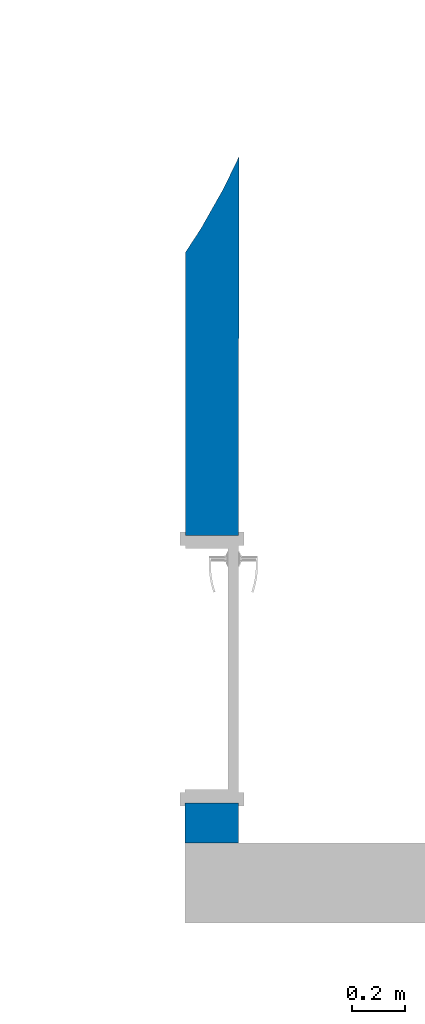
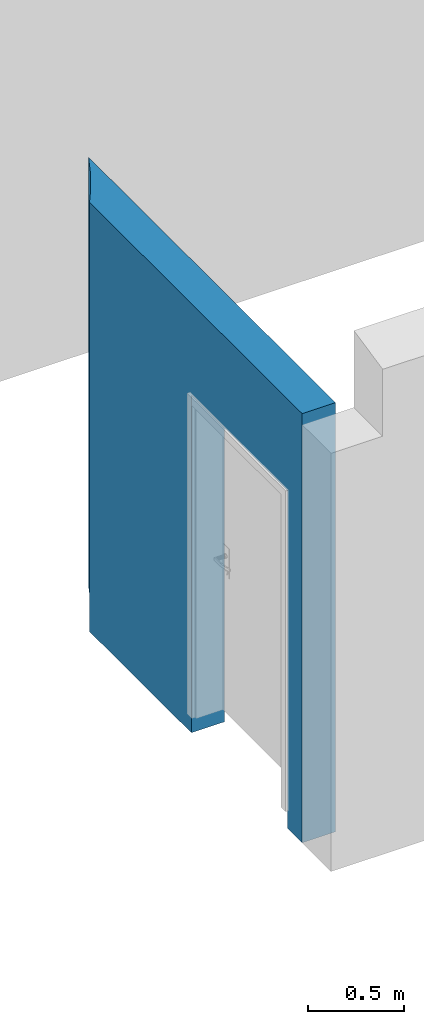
# One storey, part 5 of 7: 1 wall, 1 opening.
"""IFC4 building model written with IfcOpenShell, lengths in millimetres."""

from ifc_helpers import new_model, entity, si_unit, converted_unit, derived_unit, direction, frame, origin_with_axes, place, context, subcontext, project, spatial, polygons, material, constituent, constituent_set, type_object, element, save


model = new_model("IFC4")

# Units and contexts
model_context = context("Model", 3, precision=0.01, world=origin_with_axes(), true_north=direction((0.0, 1.0)))
body_context = subcontext(model_context, "Body", "Model", "MODEL_VIEW")
ifc_project = project(units=[si_unit("LENGTHUNIT", "METRE", prefix="MILLI"), si_unit("AREAUNIT", "SQUARE_METRE"), si_unit("VOLUMEUNIT", "CUBIC_METRE"), converted_unit("PLANEANGLEUNIT", "DEGREE", entity("IfcPlaneAngleMeasure", 0.0174532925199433), si_unit("PLANEANGLEUNIT", "RADIAN"), dimensions=[0, 0, 0, 0, 0, 0, 0]), converted_unit("TIMEUNIT", "Year", entity("IfcTimeMeasure", 31557600.0), si_unit("TIMEUNIT", "SECOND"), dimensions=[0, 0, 1, 0, 0, 0, 0]), si_unit("MASSUNIT", "GRAM", prefix="KILO"), si_unit("THERMODYNAMICTEMPERATUREUNIT", "DEGREE_CELSIUS"), si_unit("LUMINOUSINTENSITYUNIT", "LUMEN"), si_unit("ENERGYUNIT", "JOULE", prefix="MEGA"), derived_unit("THERMALCONDUCTANCEUNIT", [(si_unit("POWERUNIT", "WATT"), 1), (si_unit("LENGTHUNIT", "METRE"), -1), (si_unit("THERMODYNAMICTEMPERATUREUNIT", "KELVIN"), -1)]), derived_unit("SPECIFICHEATCAPACITYUNIT", [(si_unit("ENERGYUNIT", "JOULE"), 1), (si_unit("MASSUNIT", "GRAM", prefix="KILO"), -1), (si_unit("THERMODYNAMICTEMPERATUREUNIT", "KELVIN"), -1)]), derived_unit("MASSDENSITYUNIT", [(si_unit("MASSUNIT", "GRAM", prefix="KILO"), 1), (si_unit("VOLUMEUNIT", "CUBIC_METRE"), -1)])], contexts=[model_context])

# Site, building, storey
site_placement = place(None, origin_with_axes())
site = spatial("IfcSite", under=ifc_project, at=site_placement, Name="Exteriér", CompositionType="ELEMENT")
building_placement = place(site_placement, origin_with_axes())
building = spatial("IfcBuilding", under=site, at=building_placement, Name="Univerzitní lezecké centrum", CompositionType="ELEMENT")
storey_placement = place(building_placement, frame((0.0, 0.0, 9600.000000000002), z_axis=(0.0, 0.0, 1.0), x_axis=(1.0, 0.0, 0.0)))
storey = spatial("IfcBuildingStorey", under=building, at=storey_placement, Name="4.NP", CompositionType="ELEMENT", Elevation=9600.0)

# Wall, opening
ifc_material = material(Name="Beton vyztužený - vnitřní svislé kce")
ifc_constituent = constituent(ifc_material, Name="Beton vyztužený - vnitřní svislé kce")
ifc_constituent_set = constituent_set(constituents=[ifc_constituent], Name="!Vnitřní betonová stěna 200 mm")
wall_type = type_object("IfcWallType", Name="!Vnitřní betonová stěna 200 mm 200", PredefinedType="NOTDEFINED")
wall_placement = place(storey_placement, frame((4699.951161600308, 2610.480756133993, -120.000000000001), z_axis=(0.0, 0.0, 1.0), x_axis=(-7.624093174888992e-05, -0.9999999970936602, 0.0)))
wall = element("IfcWall", 1, at=wall_placement, inside=storey, type_object=wall_type, material=ifc_constituent_set, Name="St05", PredefinedType="NOTDEFINED", context=body_context, shape_type="Tessellation", body=[
    polygons([(1460.483393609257, 199.9999155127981, 0.5000000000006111), (1460.483393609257, 199.9999155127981, 0.0), (45.86550830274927, 199.9999999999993, 0.0), (45.86550830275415, 199.9999999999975, 2720.000000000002), (2610.46551553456, 199.9999999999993, 2720.0), (2610.46551553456, 199.9999999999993, 0.0), (2460.483396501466, 200.0001008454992, 0.0), (2460.483396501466, 200.0001008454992, 0.5000000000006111), (2460.483303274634, 200.0000000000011, 120.000000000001), (2460.483303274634, 199.9999999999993, 2140.0), (1460.483303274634, 199.9999999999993, 2140.0), (1460.483303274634, 199.9999999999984, 120.000000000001), (1460.483382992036, -8.506927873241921e-05, 0.5000000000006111), (1460.483382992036, -8.506927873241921e-05, 0.0), (403.0074505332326, 0.0, 0.0), (313.5317710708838, 58.33972012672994, 0.0), (164.2917884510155, 142.6680321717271, 0.0), (87.14781528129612, 180.0146057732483, 0.0), (87.14781528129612, 180.0146057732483, 2720.000000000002), (313.5317710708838, 58.33972012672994, 2720.000000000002), (403.0074505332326, 0.0, 2719.999999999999), (2610.480763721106, -1.995907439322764e-06, 2720.0), (164.2917884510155, 142.6680321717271, 2720.000000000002), (2610.480763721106, -1.995907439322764e-06, 0.0), (2460.483385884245, 0.0001002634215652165, 0.0), (2460.483385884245, 0.0001002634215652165, 0.5000000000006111), (2460.483303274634, 0.0, 120.000000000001), (2460.483303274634, -1.995908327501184e-06, 2140.0), (1460.483303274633, -1.995907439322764e-06, 2140.0), (1460.483303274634, 0.0, 120.000000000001)], [[[1, 2, 3, 4, 5, 6, 7, 8, 9, 10, 11, 12]], [[2, 1, 13, 14]], [[2, 14, 15, 16, 17, 18, 3]], [[4, 3, 18, 19]], [[20, 21, 22, 5, 4, 19, 23]], [[5, 22, 24, 6]], [[25, 7, 6, 24]], [[26, 8, 7, 25]], [[8, 26, 27, 9]], [[27, 28, 10, 9]], [[28, 29, 11, 10]], [[29, 30, 12, 11]], [[13, 1, 12, 30]], [[14, 13, 30, 29, 28, 27, 26, 25, 24, 22, 21, 15]], [[20, 16, 15, 21]], [[23, 17, 16, 20]], [[19, 18, 17, 23]]], closed=True),
])
opening_placement = place(wall_placement, frame((1960.483303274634, 0.0, 120.000000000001), z_axis=(0.0, 0.0, 1.0), x_axis=(1.0, 0.0, 0.0)))
element("IfcOpeningElement", 2, at=opening_placement, cuts=wall, Name="D15", context=body_context, identifier="Reference", shape_type="Tessellation", body=[
    polygons([(-500.0, 0.0, 0.0), (-500.0, 0.0, 2020.0), (-499.9999999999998, 200.0000000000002, 2020.0), (-499.9999999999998, 199.9999999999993, 0.0), (500.0, 0.0, 2020.0), (-512.0, 0.0, 0.0), (-512.0, 0.0, 2032.0), (512.0, 0.0, 2032.0), (512.0, 0.0, 0.0), (499.9999999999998, 0.0, 0.0), (500.0, 199.9999999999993, 2020.0), (500.0, 199.9999999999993, 0.0), (512.0, 200.0000000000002, 0.0), (512.0, 200.0000000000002, 2032.0), (-511.9999999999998, 200.0000000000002, 2032.0), (-511.9999999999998, 199.9999999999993, 0.0), (-499.9999999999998, -1.199025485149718, 0.0), (-499.9999999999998, 201.1990254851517, 0.0), (500.0, 201.1990254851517, 0.0), (500.0000000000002, -1.199025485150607, 0.0), (-512.0, -1.199025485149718, 0.0), (-512.0, -1.19902548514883, 2032.0), (512.0, -1.19902548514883, 2032.0), (512.0, -1.199025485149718, 0.0), (512.0, 201.1990254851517, 0.0), (512.0, 201.1990254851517, 2032.0), (-512.0, 201.1990254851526, 2032.0), (-512.0, 201.1990254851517, 0.0), (-499.9999999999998, -1.199025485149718, 2020.0), (500.0, -1.199025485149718, 2020.0)], [[[1, 2, 3, 4]], [[5, 2, 1, 6, 7, 8, 9, 10]], [[2, 5, 11, 3]], [[4, 3, 11, 12, 13, 14, 15, 16]], [[17, 1, 4, 18, 19, 12, 10, 20]], [[1, 17, 21, 6]], [[7, 6, 21, 22]], [[8, 7, 22, 23]], [[9, 8, 23, 24]], [[20, 10, 9, 24]], [[5, 10, 12, 11]], [[12, 19, 25, 13]], [[14, 13, 25, 26]], [[15, 14, 26, 27]], [[16, 15, 27, 28]], [[18, 4, 16, 28]], [[18, 28, 27, 26, 25, 19]], [[29, 17, 20, 30]], [[17, 29, 30, 20, 24, 23, 22, 21]]], closed=True),
])

save(model, "model.ifc")
